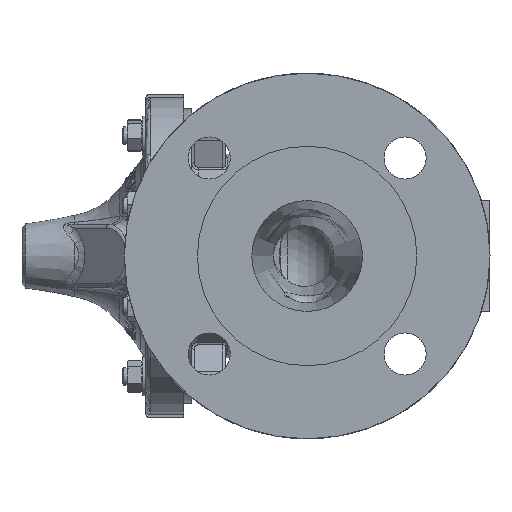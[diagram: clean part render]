
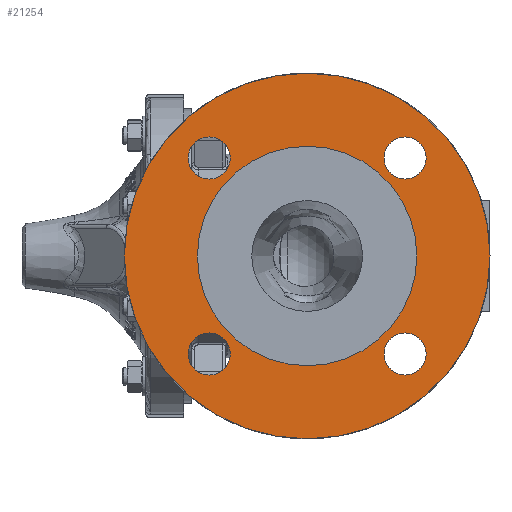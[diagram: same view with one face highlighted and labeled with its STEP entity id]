
A CAD part, left-side view. The second image highlights one B-rep face of the part: STEP entity #21254.
In plain terms, the highlighted planar face has unit normal (-1, 0, 0).
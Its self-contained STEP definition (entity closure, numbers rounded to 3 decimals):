
#4217=FACE_BOUND('',#6443,.T.);
#4218=FACE_BOUND('',#6444,.T.);
#4219=FACE_BOUND('',#6445,.T.);
#4220=FACE_BOUND('',#6446,.T.);
#4221=FACE_BOUND('',#6447,.T.);
#5086=FACE_OUTER_BOUND('',#6442,.T.);
#6442=EDGE_LOOP('',(#17352));
#6443=EDGE_LOOP('',(#17353));
#6444=EDGE_LOOP('',(#17354));
#6445=EDGE_LOOP('',(#17355));
#6446=EDGE_LOOP('',(#17356));
#6447=EDGE_LOOP('',(#17357));
#7279=CIRCLE('',#22338,82.5);
#7632=CIRCLE('',#23015,9.5);
#7634=CIRCLE('',#23018,9.5);
#7636=CIRCLE('',#23021,9.5);
#7638=CIRCLE('',#23024,9.5);
#7651=CIRCLE('',#23042,49.5);
#8317=VERTEX_POINT('',#30931);
#9138=VERTEX_POINT('',#57900);
#9140=VERTEX_POINT('',#57906);
#9142=VERTEX_POINT('',#57912);
#9144=VERTEX_POINT('',#57918);
#9156=VERTEX_POINT('',#58413);
#10686=EDGE_CURVE('',#8317,#8317,#7279,.T.);
#12009=EDGE_CURVE('',#9138,#9138,#7632,.T.);
#12012=EDGE_CURVE('',#9140,#9140,#7634,.T.);
#12015=EDGE_CURVE('',#9142,#9142,#7636,.T.);
#12018=EDGE_CURVE('',#9144,#9144,#7638,.T.);
#12040=EDGE_CURVE('',#9156,#9156,#7651,.T.);
#17352=ORIENTED_EDGE('',*,*,#10686,.F.);
#17353=ORIENTED_EDGE('',*,*,#12009,.T.);
#17354=ORIENTED_EDGE('',*,*,#12012,.T.);
#17355=ORIENTED_EDGE('',*,*,#12015,.T.);
#17356=ORIENTED_EDGE('',*,*,#12018,.T.);
#17357=ORIENTED_EDGE('',*,*,#12040,.F.);
#20183=PLANE('',#23044);
#21254=ADVANCED_FACE('',(#5086,#4217,#4218,#4219,#4220,#4221),#20183,.F.);
#22338=AXIS2_PLACEMENT_3D('',#30933,#24887,#24888);
#23015=AXIS2_PLACEMENT_3D('',#57901,#26613,#26614);
#23018=AXIS2_PLACEMENT_3D('',#57907,#26620,#26621);
#23021=AXIS2_PLACEMENT_3D('',#57913,#26627,#26628);
#23024=AXIS2_PLACEMENT_3D('',#57919,#26634,#26635);
#23042=AXIS2_PLACEMENT_3D('',#58414,#26673,#26674);
#23044=AXIS2_PLACEMENT_3D('',#58418,#26678,#26679);
#24887=DIRECTION('center_axis',(1.,0.,0.));
#24888=DIRECTION('ref_axis',(0.,0.,
-1.));
#26613=DIRECTION('center_axis',(1.,0.,0.));
#26614=DIRECTION('ref_axis',(0.,1.,0.));
#26620=DIRECTION('center_axis',(1.,0.,0.));
#26621=DIRECTION('ref_axis',(0.,0.,
-1.));
#26627=DIRECTION('center_axis',(1.,0.,0.));
#26628=DIRECTION('ref_axis',(0.,-1.,0.));
#26634=DIRECTION('center_axis',(1.,0.,0.));
#26635=DIRECTION('ref_axis',(0.,0.,
1.));
#26673=DIRECTION('center_axis',(-1.,0.,0.));
#26674=DIRECTION('ref_axis',(0.,0.,
-1.));
#26678=DIRECTION('center_axis',(1.,0.,0.));
#26679=DIRECTION('ref_axis',(0.,0.,
-1.));
#30931=CARTESIAN_POINT('',(-112.,-55.65,82.5));
#30933=CARTESIAN_POINT('Origin',(-112.,-55.65,0.));
#57900=CARTESIAN_POINT('',(-112.,-109.344,44.194));
#57901=CARTESIAN_POINT('Origin',(-112.,-99.844,44.194));
#57906=CARTESIAN_POINT('',(-112.,-11.456,53.694));
#57907=CARTESIAN_POINT('Origin',(-112.,-11.456,44.194));
#57912=CARTESIAN_POINT('',(-112.,-1.956,-44.194));
#57913=CARTESIAN_POINT('Origin',(-112.,-11.456,-44.194));
#57918=CARTESIAN_POINT('',(-112.,-99.844,-53.694));
#57919=CARTESIAN_POINT('Origin',(-112.,-99.844,-44.194));
#58413=CARTESIAN_POINT('',(-112.,-55.65,49.5));
#58414=CARTESIAN_POINT('Origin',(-112.,-55.65,0.));
#58418=CARTESIAN_POINT('Origin',(-112.,-55.65,0.));
